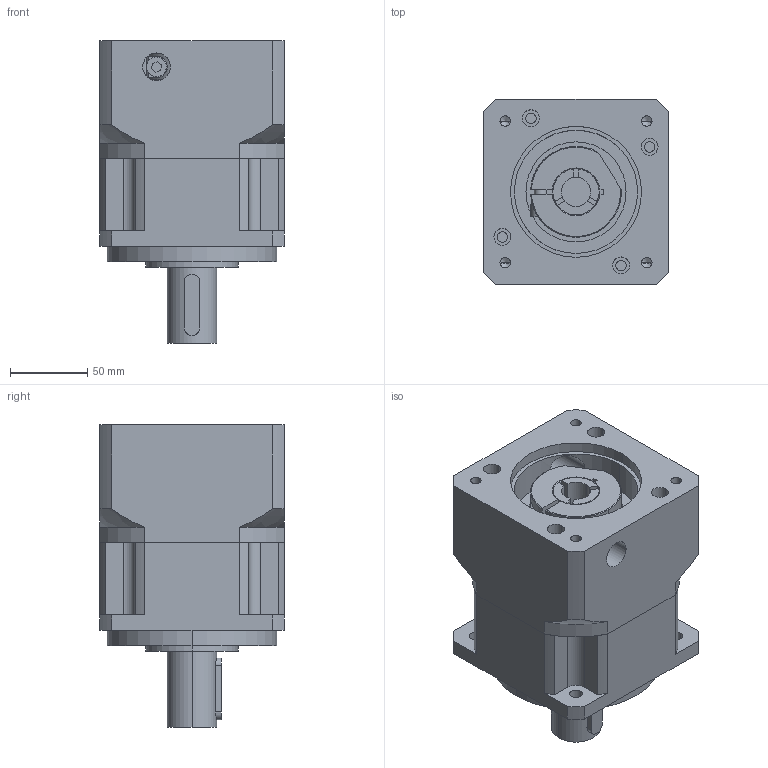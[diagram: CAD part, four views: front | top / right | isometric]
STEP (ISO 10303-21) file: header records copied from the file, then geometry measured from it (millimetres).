
FILE_DESCRIPTION (( 'STEP AP203' ), '1' );
FILE_NAME ('PDF120-L1-5-110-19x40.STEP', '2020-12-01T02:00:14', ( 'USER-' ), ( 'MS' ), 'SwSTEP 2.0', 'SolidWorks 2018', '' );
FILE_SCHEMA (( 'CONFIG_CONTROL_DESIGN' ));
Length unit declared in the file: millimetre
Products named in the file (8): PD120   ____________^PDF120-L1(2)_PDF120-L1; PD120  ________^PDF120-L1(2)_PDF120-L1; ______   10x8x40^PDF120-L1(2)_PDF120-L1; PD120   ____^PDF120-L1(2)_PDF120-L1; PD120   ______^PDF120-L1(2)_PDF120-L1; PD120   _______22^PDF120-L1(2)_PDF120-L1; GB__T70__1-2000   ________________M8__20^PDF120-L1(2)_PDF120-L1; PDF120-L1-5-110-19x40
Assembly tree (7 placements, depth 2):
  PDF120-L1-5-110-19x40
    PD120   ____________^PDF120-L1(2)_PDF120-L1
    PD120  ________^PDF120-L1(2)_PDF120-L1
    ______   10x8x40^PDF120-L1(2)_PDF120-L1
    PD120   ____^PDF120-L1(2)_PDF120-L1
    PD120   ______^PDF120-L1(2)_PDF120-L1
    PD120   _______22^PDF120-L1(2)_PDF120-L1
    GB__T70__1-2000   ________________M8__20^PDF120-L1(2)_PDF120-L1
Bounding box: 120 x 120 x 196.5 mm (x, y, z)
Volume: 1646877.6 mm3; surface area: 192769.1 mm2
Topology: 7 solids, 7 shells, 246 faces, 619 edges, 401 vertices
Faces by surface type: cylinder 126, plane 86, cone 26, torus 8
Entity records: 9355 total; most frequent: CARTESIAN_POINT 2379, DIRECTION 1367, ORIENTED_EDGE 1218, EDGE_CURVE 609, AXIS2_PLACEMENT_3D 537, VERTEX_POINT 401, EDGE_LOOP 304, VECTOR 293
